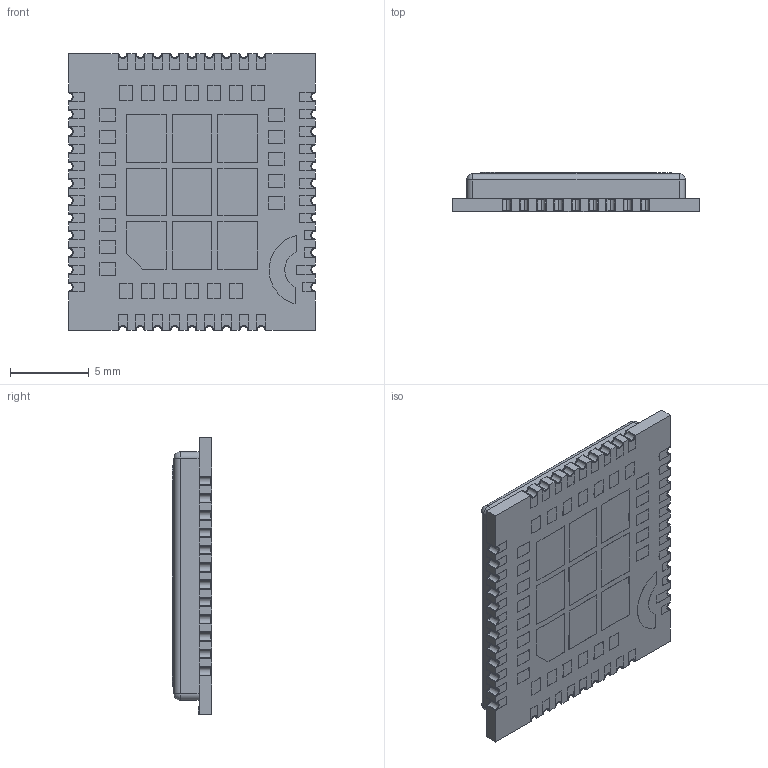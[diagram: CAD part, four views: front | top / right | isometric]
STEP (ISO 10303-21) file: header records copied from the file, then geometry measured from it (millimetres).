
FILE_DESCRIPTION (( 'STEP AP214' ), '1' );
FILE_NAME ('User Library-SIM868-1.STEP', '2021-04-01T08:36:36', ( '' ), ( '' ), 'SwSTEP 2.0', 'SolidWorks 2020', '' );
FILE_SCHEMA (( 'AUTOMOTIVE_DESIGN' ));
Length unit declared in the file: millimetre
Products named in the file (1): User Library-SIM868-1
Bounding box: 15.7 x 2.5 x 17.6 mm (x, y, z)
Volume: 577 mm3; surface area: 2400.1 mm2
Topology: 226 solids, 226 shells, 3430 faces, 8650 edges, 5704 vertices
Faces by surface type: plane 2340, bspline 767, cylinder 319, sphere 4
Entity records: 145923 total; most frequent: CARTESIAN_POINT 46980, ORIENTED_EDGE 17292, DIRECTION 13078, EDGE_CURVE 8646, VECTOR 6474, LINE 6474, VERTEX_POINT 5704, EDGE_LOOP 3518
